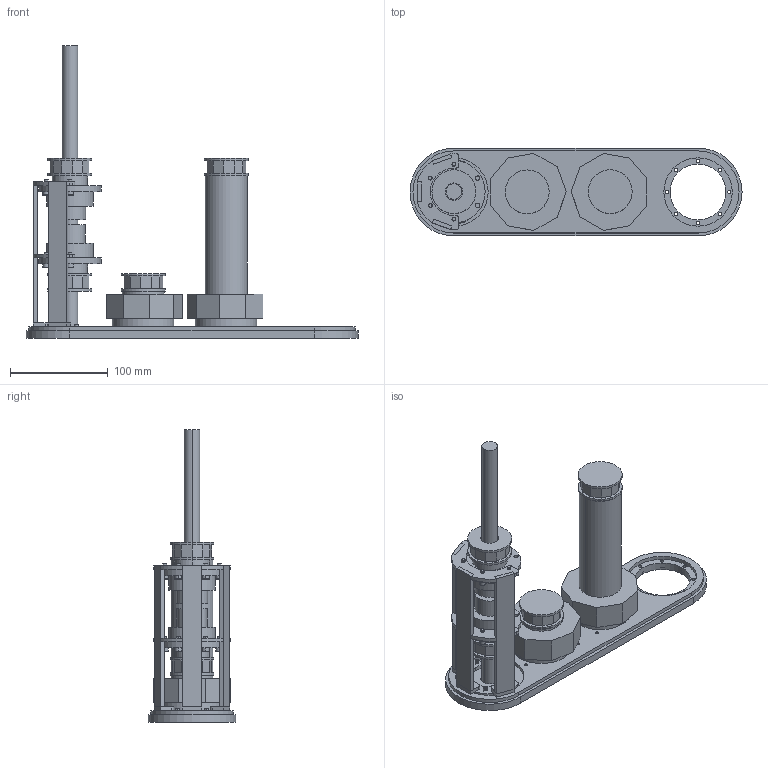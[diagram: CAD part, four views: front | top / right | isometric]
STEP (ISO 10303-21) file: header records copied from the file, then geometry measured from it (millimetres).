
FILE_DESCRIPTION (( 'STEP AP203' ), '1' );
FILE_NAME ('linkage2加带轮固定装配体.STEP', '2024-11-01T11:56:20', ( '' ), ( '' ), 'SwSTEP 2.0', 'SolidWorks 2018', '' );
FILE_SCHEMA (( 'CONFIG_CONTROL_DESIGN' ));
Length unit declared in the file: millimetre
Products named in the file (11): hexagon socket head cap screws gb_GB_FASTENER_SCREWS_HSHCS M4X10-N; Body003.step; Body005.step; Linkage2L.step; Body004.step; linkage2加带轮固定装配体; Body001.step; hexagon socket head cap screws gb_GB_FASTENER_SCREWS_HSHCS M4X12-N; 湍謫嘐隅殤; Body.step; Body002.step
Assembly tree (20 placements, depth 3):
  linkage2加带轮固定装配体
    Linkage2L.step
      Body005.step
      Body004.step
      Body003.step
      Body002.step
      Body001.step
      Body.step
    湍謫嘐隅殤
    hexagon socket head cap screws gb_GB_FASTENER_SCREWS_HSHCS M4X12-N  x8
    hexagon socket head cap screws gb_GB_FASTENER_SCREWS_HSHCS M4X10-N  x4
Bounding box: 340 x 90 x 300 mm (x, y, z)
Volume: 1065954.6 mm3; surface area: 219929.5 mm2
Topology: 27 solids, 27 shells, 752 faces, 1773 edges, 1106 vertices
Faces by surface type: plane 361, cylinder 283, cone 84, torus 24
Entity records: 16372 total; most frequent: DIRECTION 2775, CARTESIAN_POINT 2511, ORIENTED_EDGE 2418, EDGE_CURVE 1209, AXIS2_PLACEMENT_3D 1040, VERTEX_POINT 776, VECTOR 695, LINE 695
